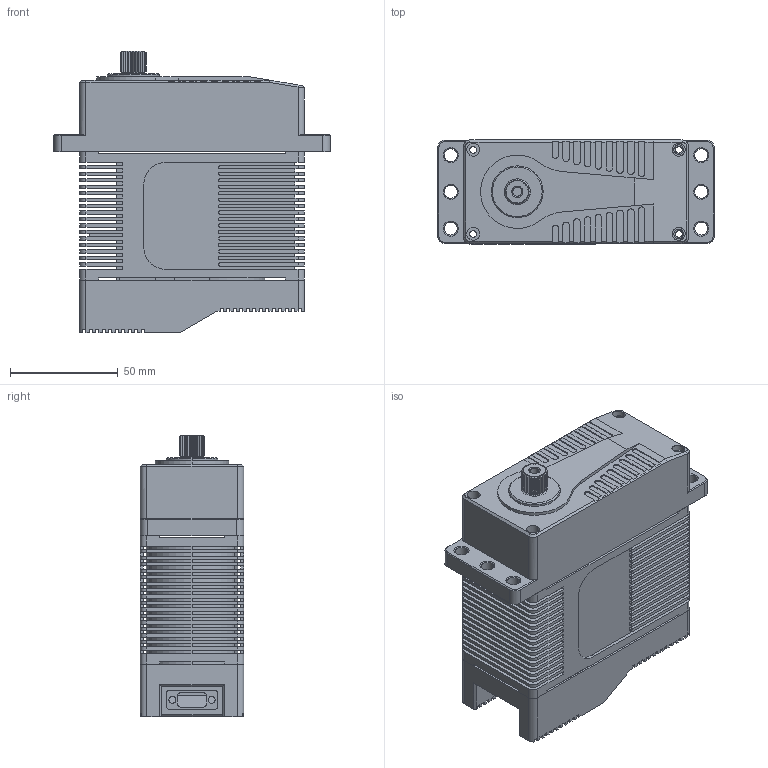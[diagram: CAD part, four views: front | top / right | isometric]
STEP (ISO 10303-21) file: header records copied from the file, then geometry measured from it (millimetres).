
FILE_DESCRIPTION (( 'STEP AP214' ), '1' );
FILE_NAME ('X50-28-625-V2.0_DM 20200825..STEP', '2020-08-25T09:17:14', ( '微软用户' ), ( '微软中国' ), 'SwSTEP 2.0', 'SolidWorks 2016', '' );
FILE_SCHEMA (( 'AUTOMOTIVE_DESIGN' ));
Length unit declared in the file: millimetre
Products named in the file (2): X50-28-625-V2.0_DM 20200825.
Bounding box: 128 x 48 x 130.6 mm (x, y, z)
Surface area: 75582.8 mm2 (no closed solid volume)
Topology: 0 solids, 9 shells, 935 faces, 3203 edges, 2235 vertices
Faces by surface type: plane 555, cylinder 316, cone 62, bspline 2
Entity records: 45402 total; most frequent: CARTESIAN_POINT 7293, DIRECTION 5711, ORIENTED_EDGE 5683, EDGE_CURVE 3203, VERTEX_POINT 2235, VECTOR 2167, LINE 2167, AXIS2_PLACEMENT_3D 1772
